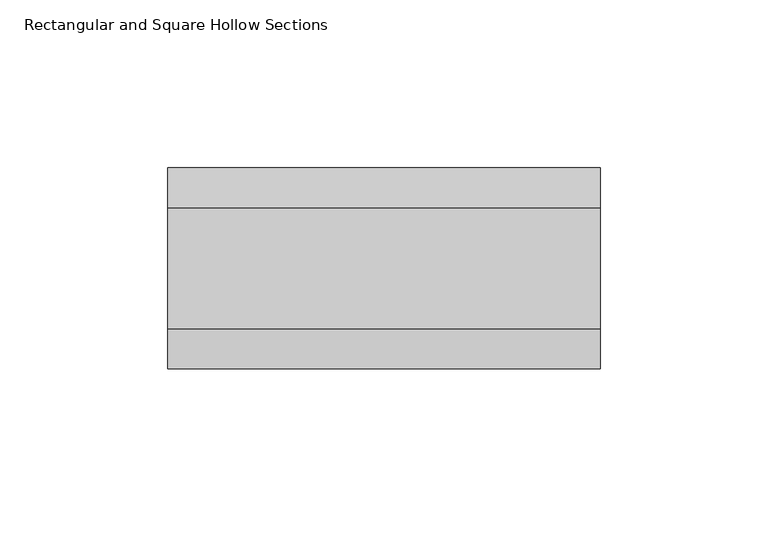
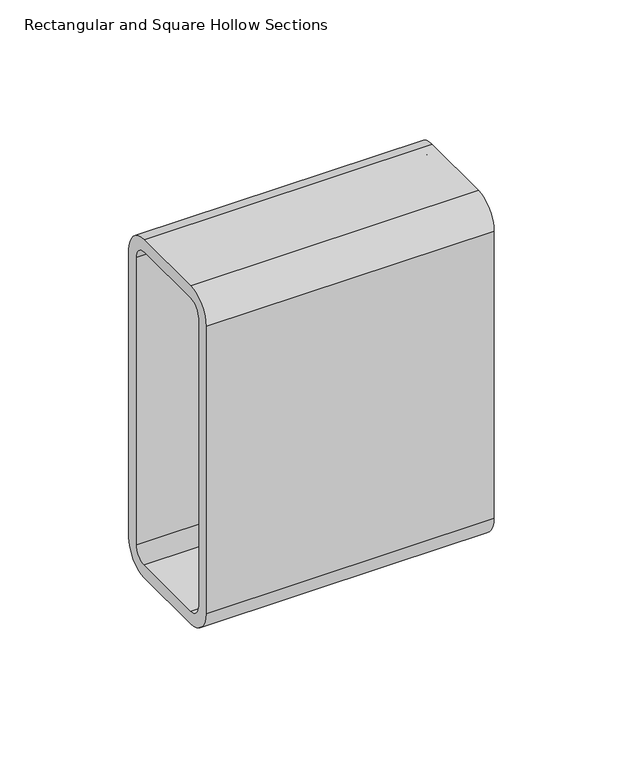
"""IFC4 building model written with IfcOpenShell, lengths in millimetres: beam geometry, Rectangular and Square Hollow Sections : TREC160x60x6."""

import ifcopenshell
import ifcopenshell.guid

model = None  # the IFC model being written
_history = None  # IfcOwnerHistory: only IFC2X3 demands one
_inside = {}  # id of a spatial element -> (the spatial element, [elements in it])
_under = {}  # id of a project, library or spatial element -> (it, [spatial elements below it])
_declared = {}  # id of a project -> (the project, [libraries it declares])
_typed = {}  # id of a type object -> (the type object, [elements of that type])
_made_of = {}  # id of a material, layer set ... -> (it, [elements and type objects made of it])


def new_model(schema):
    """Start an empty IFC model of exactly this schema.

    Asked for "IFC4X3", IfcOpenShell would pick the latest addendum, in which some entities
    have other attributes; the version numbers below select the first issue.
    IFC2X3 requires an IfcOwnerHistory on every rooted entity: one is made here for all.
    """
    global model, _history
    if schema == "IFC4X3":
        model = ifcopenshell.file(schema_version=(4, 3, 0, 0))
    else:
        model = ifcopenshell.file(schema=schema)
    _inside.clear()
    _under.clear()
    _declared.clear()
    _typed.clear()
    _made_of.clear()
    _history = None
    if model.schema == "IFC2X3":
        org = make("IfcOrganization", Name="unknown")
        user = make(
            "IfcPersonAndOrganization",
            ThePerson=make("IfcPerson", FamilyName="unknown"),
            TheOrganization=org,
        )
        app = make(
            "IfcApplication",
            ApplicationDeveloper=org,
            Version="unknown",
            ApplicationFullName="unknown",
            ApplicationIdentifier="unknown",
        )
        _history = make(
            "IfcOwnerHistory",
            OwningUser=user,
            OwningApplication=app,
            ChangeAction="ADDED",
            CreationDate=0,
        )
    return model


def make(cls, **values):
    """One entity of the class cls with the attributes given. An attribute that is None is left unset."""
    return model.create_entity(
        cls, **{name: value for name, value in values.items() if value is not None}
    )


def rooted(cls, **values):
    """An entity with a GlobalId (a new one), such as an element, a storey or a relation."""
    return make(cls, GlobalId=ifcopenshell.guid.new(), OwnerHistory=_history, **values)


def si_unit(unit_type, name, prefix=None):
    """IfcSIUnit, for example si_unit("LENGTHUNIT", "METRE", prefix="MILLI")."""
    return make("IfcSIUnit", UnitType=unit_type, Prefix=prefix, Name=name)


def assignment(units):
    """IfcUnitAssignment: the units of a project."""
    return None if units is None else make("IfcUnitAssignment", Units=units)


def point(xyz):
    """IfcCartesianPoint."""
    return None if xyz is None else make("IfcCartesianPoint", Coordinates=xyz)


def direction(xyz):
    """IfcDirection."""
    return None if xyz is None else make("IfcDirection", DirectionRatios=xyz)


def frame(location, z_axis=None, x_axis=None):
    """IfcAxis2Placement3D, a coordinate frame: its origin and axes. An axis left out is left unset."""
    return make(
        "IfcAxis2Placement3D",
        Location=point(location),
        Axis=direction(z_axis),
        RefDirection=direction(x_axis),
    )


def frame_2d(location, x_axis=None):
    """IfcAxis2Placement2D, a coordinate frame in the plane: its origin and x axis."""
    return make(
        "IfcAxis2Placement2D", Location=point(location), RefDirection=direction(x_axis)
    )


def origin():
    """The frame at (0, 0, 0) with its axes left unset."""
    return frame((0.0, 0.0, 0.0))


def place(relative_to, where):
    """IfcLocalPlacement: puts the frame where relative to a parent placement (None: the world)."""
    return make(
        "IfcLocalPlacement", PlacementRelTo=relative_to, RelativePlacement=where
    )


def context(
    kind, dimensions, precision=None, world=None, true_north=None, identifier=None
):
    """IfcGeometricRepresentationContext, for example the 3D "Model" context."""
    return make(
        "IfcGeometricRepresentationContext",
        ContextIdentifier=identifier,
        ContextType=kind,
        CoordinateSpaceDimension=dimensions,
        Precision=precision,
        WorldCoordinateSystem=world,
        TrueNorth=true_north,
    )


def project(units=None, contexts=None):
    """IfcProject with its units and contexts."""
    return rooted(
        "IfcProject",
        Name="project",
        RepresentationContexts=contexts,
        UnitsInContext=assignment(units),
    )


def spatial(cls, under=None, at=None, **own):
    """A site, building, storey or space (cls), placed at a placement, below another one or the project."""
    s = rooted(cls, ObjectPlacement=at, **own)
    if under is not None:
        _under.setdefault(under.id(), (under, []))[1].append(s)
    return s


def polyline(points):
    """IfcPolyline through the points."""
    return make("IfcPolyline", Points=[point(p) for p in points])


def circle_curve(where, radius):
    """IfcCircle in the frame where."""
    return make("IfcCircle", Position=where, Radius=radius)


def trimmed(basis, trim1, trim2, sense, master):
    """IfcTrimmedCurve: the piece of a basis curve between two trims."""
    return make(
        "IfcTrimmedCurve",
        BasisCurve=basis,
        Trim1=trim1,
        Trim2=trim2,
        SenseAgreement=sense,
        MasterRepresentation=master,
    )


def segment(curve, same_sense, transition):
    """IfcCompositeCurveSegment."""
    return make(
        "IfcCompositeCurveSegment",
        Transition=transition,
        SameSense=same_sense,
        ParentCurve=curve,
    )


def composite_curve(segments, self_intersect=None):
    """IfcCompositeCurve: segments joined end to end."""
    return make("IfcCompositeCurve", Segments=segments, SelfIntersect=self_intersect)


def outline(outer, holes=None, kind="AREA"):
    """IfcArbitraryClosedProfileDef: a profile drawn as a closed curve; with holes, ...WithVoids."""
    if holes is None:
        return make("IfcArbitraryClosedProfileDef", ProfileType=kind, OuterCurve=outer)
    return make(
        "IfcArbitraryProfileDefWithVoids",
        ProfileType=kind,
        OuterCurve=outer,
        InnerCurves=holes,
    )


def extrude(swept, where, along, depth):
    """IfcExtrudedAreaSolid: the profile swept, set in the frame where, extruded along a direction by depth."""
    return make(
        "IfcExtrudedAreaSolid",
        SweptArea=swept,
        Position=where,
        ExtrudedDirection=direction(along),
        Depth=depth,
    )


def shape(context_of_items, identifier, shape_type, items):
    """IfcShapeRepresentation: the items that make up one representation, for example the "Body"."""
    return make(
        "IfcShapeRepresentation",
        ContextOfItems=context_of_items,
        RepresentationIdentifier=identifier,
        RepresentationType=shape_type,
        Items=items,
    )


def source(mapping_origin, context_of_items, identifier, shape_type, items):
    """IfcRepresentationMap: a shape defined once, which mapped items show again and again."""
    return make(
        "IfcRepresentationMap",
        MappingOrigin=mapping_origin,
        MappedRepresentation=shape(context_of_items, identifier, shape_type, items),
    )


def transform(
    local_origin,
    x_axis=None,
    y_axis=None,
    z_axis=None,
    scale=None,
    scale2=None,
    scale3=None,
    uniform=True,
):
    """IfcCartesianTransformationOperator3D, or its non-uniform kind. x_axis, y_axis, z_axis: its Axis1, 2, 3."""
    if uniform:
        return make(
            "IfcCartesianTransformationOperator3D",
            Axis1=direction(x_axis),
            Axis2=direction(y_axis),
            LocalOrigin=point(local_origin),
            Scale=scale,
            Axis3=direction(z_axis),
        )
    return make(
        "IfcCartesianTransformationOperator3DnonUniform",
        Axis1=direction(x_axis),
        Axis2=direction(y_axis),
        LocalOrigin=point(local_origin),
        Scale=scale,
        Axis3=direction(z_axis),
        Scale2=scale2,
        Scale3=scale3,
    )


def mapped(mapping_source, mapping_target):
    """IfcMappedItem: shows the shape of a source again, moved by a transform."""
    return make(
        "IfcMappedItem", MappingSource=mapping_source, MappingTarget=mapping_target
    )


def made_of(thing, what):
    """Note that an element or type object is made of a material, layer set ...; save() writes the relation."""
    if what is not None:
        _made_of.setdefault(what.id(), (what, []))[1].append(thing)
    return thing


def element(
    cls,
    number,
    at=None,
    inside=None,
    cuts=None,
    type_object=None,
    material=None,
    context=None,
    identifier="Body",
    shape_type=None,
    held_by="IfcProductDefinitionShape",
    body=None,
    shapes=None,
    **own,
):
    """One element of the class cls, such as IfcWall. Its Tag is "e" and its number.

    at: its placement. inside: the storey or other place that contains it. cuts: it is an
    opening in that element (IfcRelVoidsElement). A single representation is given by context,
    identifier, shape_type and body (its items); several are given by shapes. held_by: the class
    of the entity that holds the representations. save() writes the other relations.
    """
    e = rooted(cls, Tag="e%d" % number, ObjectPlacement=at, **own)
    if body is not None:
        shapes = [shape(context, identifier, shape_type, body)]
    if shapes is not None:
        e.Representation = make(held_by, Representations=shapes)
    if inside is not None:
        _inside.setdefault(inside.id(), (inside, []))[1].append(e)
    if cuts is not None:
        rooted(
            "IfcRelVoidsElement", RelatingBuildingElement=cuts, RelatedOpeningElement=e
        )
    if type_object is not None:
        _typed.setdefault(type_object.id(), (type_object, []))[1].append(e)
    return made_of(e, material)


def aggregate(whole, parts):
    """IfcRelAggregates: a whole, such as a stair, and the parts it consists of."""
    return rooted("IfcRelAggregates", RelatingObject=whole, RelatedObjects=parts)


def save(model, path):
    """Write the relations noted so far, then the file.

    IfcRelAggregates (storeys below a building ...), IfcRelContainedInSpatialStructure (elements
    in a storey), IfcRelDefinesByType, IfcRelAssociatesMaterial and IfcRelDeclares: one each for
    every whole, place, type object, material and project.
    """
    for whole, parts in _under.values():
        aggregate(whole, parts)
    for where, things in _inside.values():
        rooted(
            "IfcRelContainedInSpatialStructure",
            RelatedElements=things,
            RelatingStructure=where,
        )
    for kind, things in _typed.values():
        rooted("IfcRelDefinesByType", RelatedObjects=things, RelatingType=kind)
    for what, things in _made_of.values():
        rooted("IfcRelAssociatesMaterial", RelatedObjects=things, RelatingMaterial=what)
    for by, libraries in _declared.values():
        rooted("IfcRelDeclares", RelatingContext=by, RelatedDefinitions=libraries)
    model.write(path)


def rectangular_and_square_hollow_sections_b1a43adb(model_context):
    return source(origin(), model_context, "Body", "SweptSolid", [
        extrude(outline(composite_curve([segment(polyline([(30.0, 68.0), (30.0, -68.0)]), True, "CONTINUOUS"), segment(trimmed(circle_curve(frame_2d((18.0, -68.0)), 12.0), [point((30.0, -68.0))], [point((18.0, -80.0))], False, "CARTESIAN"), True, "CONTINUOUS"), segment(polyline([(18.0, -80.0), (-18.0, -80.0)]), True, "CONTINUOUS"), segment(trimmed(circle_curve(frame_2d((-18.0, -68.0)), 12.0), [point((-18.0, -80.0))], [point((-30.0, -68.0))], False, "CARTESIAN"), True, "CONTINUOUS"), segment(polyline([(-30.0, -68.0), (-30.0, 68.0)]), True, "CONTINUOUS"), segment(trimmed(circle_curve(frame_2d((-18.0, 68.0)), 12.0), [point((-30.0, 68.0))], [point((-18.0, 80.0))], False, "CARTESIAN"), True, "CONTINUOUS"), segment(polyline([(-18.0, 80.0), (18.0, 80.0)]), True, "CONTINUOUS"), segment(trimmed(circle_curve(frame_2d((18.0, 68.0)), 12.0), [point((18.0, 80.0))], [point((30.0, 68.0))], False, "CARTESIAN"), True, "CONTINUOUS")], self_intersect=False), holes=[composite_curve([segment(trimmed(circle_curve(frame_2d((-18.0, 68.0)), 6.0), [point((-18.0, 74.0))], [point((-24.0, 68.0))], True, "CARTESIAN"), True, "CONTINUOUS"), segment(polyline([(-24.0, 68.0), (-24.0, -68.0)]), True, "CONTINUOUS"), segment(trimmed(circle_curve(frame_2d((-18.0, -68.0)), 6.0), [point((-24.0, -68.0))], [point((-18.0, -74.0))], True, "CARTESIAN"), True, "CONTINUOUS"), segment(polyline([(-18.0, -74.0), (18.0, -74.0)]), True, "CONTINUOUS"), segment(trimmed(circle_curve(frame_2d((18.0, -68.0)), 6.0), [point((18.0, -74.0))], [point((24.0, -68.0))], True, "CARTESIAN"), True, "CONTINUOUS"), segment(polyline([(24.0, -68.0), (24.0, 68.0)]), True, "CONTINUOUS"), segment(trimmed(circle_curve(frame_2d((18.0, 68.0)), 6.0), [point((24.0, 68.0))], [point((18.0, 74.0))], True, "CARTESIAN"), True, "CONTINUOUS"), segment(polyline([(18.0, 74.0), (-18.0, 74.0)]), True, "CONTINUOUS")], self_intersect=False)]), frame((-64.5, 0.0, 0.0), z_axis=(1.0, 0.0, 0.0), x_axis=(0.0, 1.0, 0.0)), (0.0, 0.0, 1.0), 129.0),
    ])


if __name__ == "__main__":
    model = new_model("IFC4")
    model_context = context("Model", 3, world=origin())
    ifc_project = project(units=[si_unit("LENGTHUNIT", "METRE", prefix="MILLI")], contexts=[model_context])
    site = spatial("IfcSite", under=ifc_project)
    building = spatial("IfcBuilding", under=site)
    placement = place(None, origin())
    rectangular_and_square_hollow_sections_shape = rectangular_and_square_hollow_sections_b1a43adb(model_context)
    element("IfcBeam", 1, ObjectType="Rectangular and Square Hollow Sections : TREC160x60x6", at=placement, inside=building, context=model_context, shape_type="MappedRepresentation", body=[
        mapped(rectangular_and_square_hollow_sections_shape, transform((0.0, 0.0, 0.0), x_axis=(1.0, 0.0, 0.0), y_axis=(0.0, 1.0, 0.0), z_axis=(0.0, 0.0, 1.0))),
    ])
    save(model, "model.ifc")
